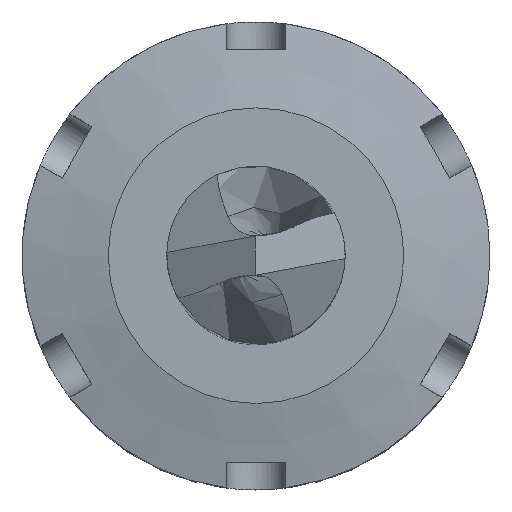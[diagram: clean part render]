
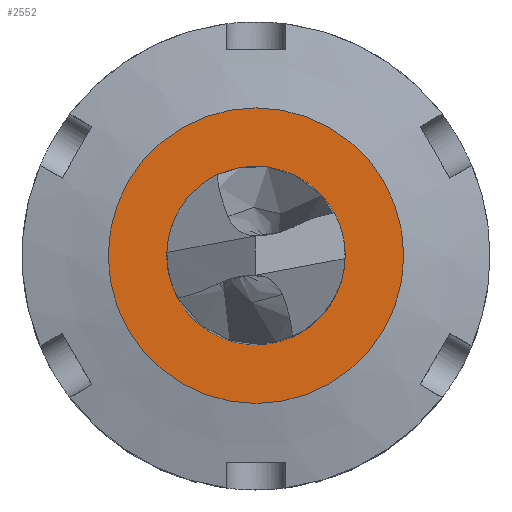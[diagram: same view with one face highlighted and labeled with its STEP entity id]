
A CAD part, top view. The second image highlights one B-rep face of the part: STEP entity #2552.
In plain terms, the highlighted planar face has unit normal (0, 0, 1).
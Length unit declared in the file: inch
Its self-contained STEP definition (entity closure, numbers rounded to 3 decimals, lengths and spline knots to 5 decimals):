
#699=CARTESIAN_POINT('',(-0.1875,0.00001,-1.025));
#700=VERTEX_POINT('',#699);
#701=CARTESIAN_POINT('',(0.,0.00001,-1.025));
#702=DIRECTION('',(0.0,0.0,1.0));
#703=DIRECTION('',(-1.0,0.,0.0));
#704=AXIS2_PLACEMENT_3D('',#701,#702,#703);
#705=CIRCLE('',#704,0.1875);
#706=EDGE_CURVE('',#700,#700,#705,.T.);
#2437=CARTESIAN_POINT('',(0.3108,0.,-1.025));
#2438=VERTEX_POINT('',#2437);
#2439=CARTESIAN_POINT('',(0.,0.,-1.025));
#2440=DIRECTION('',(0.0,0.0,1.0));
#2441=DIRECTION('',(1.0,0.0,0.0));
#2442=AXIS2_PLACEMENT_3D('',#2439,#2440,#2441);
#2443=CIRCLE('',#2442,0.3108);
#2444=EDGE_CURVE('',#2438,#2438,#2443,.T.);
#2541=CARTESIAN_POINT('',(0.34188,-0.34188,-1.025));
#2542=DIRECTION('',(0.0,0.0,-1.0));
#2543=DIRECTION('',(-1.0,0.0,0.0));
#2544=AXIS2_PLACEMENT_3D('',#2541,#2542,#2543);
#2545=PLANE('',#2544);
#2546=ORIENTED_EDGE('',*,*,#2444,.T.);
#2547=EDGE_LOOP('',(#2546));
#2548=FACE_OUTER_BOUND('',#2547,.T.);
#2549=ORIENTED_EDGE('',*,*,#706,.F.);
#2550=EDGE_LOOP('',(#2549));
#2551=FACE_BOUND('',#2550,.T.);
#2552=ADVANCED_FACE('',(#2548,#2551),#2545,.F.);
